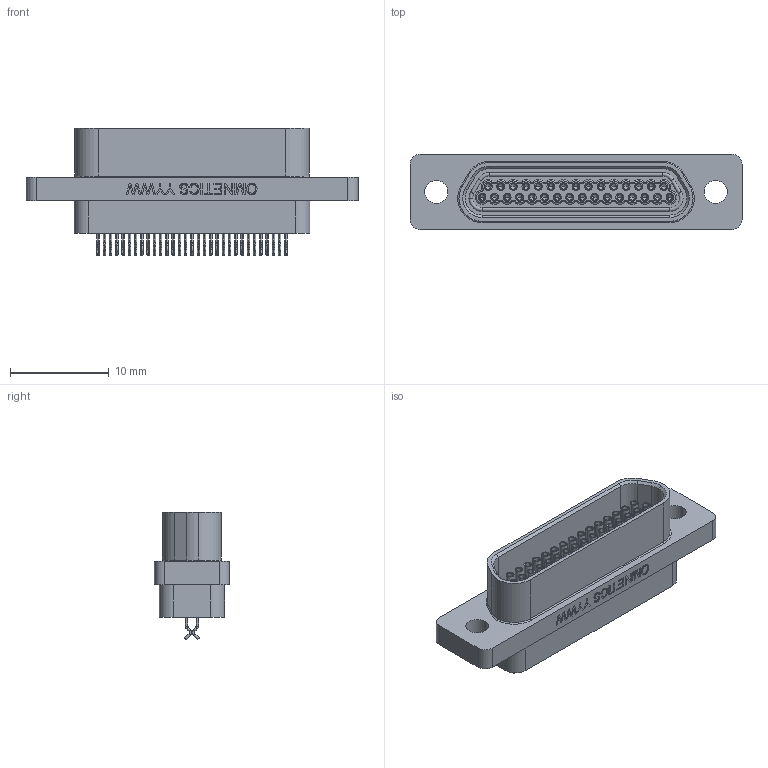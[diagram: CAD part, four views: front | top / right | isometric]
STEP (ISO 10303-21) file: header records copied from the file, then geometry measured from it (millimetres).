
FILE_DESCRIPTION (( 'STEP AP214' ), '1' );
FILE_NAME ('A99245-031 REV B.STEP', '2017-04-20T19:12:36', ( '' ), ( '' ), 'SwSTEP 2.0', 'SolidWorks 2016', '' );
FILE_SCHEMA (( 'AUTOMOTIVE_DESIGN' ));
Length unit declared in the file: inch
Products named in the file (1): A99245-031 REV A
Bounding box: 33.66 x 7.63 x 12.89 mm (x, y, z)
Volume: 1308.7 mm3; surface area: 2729.7 mm2
Topology: 1 solids, 66 shells, 1418 faces, 3152 edges, 1908 vertices
Faces by surface type: cylinder 674, plane 362, torus 261, cone 67, bspline 54
Entity records: 41960 total; most frequent: CARTESIAN_POINT 9599, DIRECTION 7452, ORIENTED_EDGE 6168, AXIS2_PLACEMENT_3D 3113, EDGE_CURVE 3084, VERTEX_POINT 1908, CIRCLE 1748, EDGE_LOOP 1658
